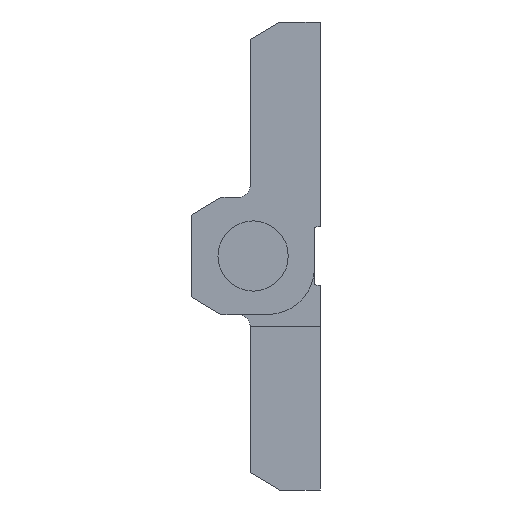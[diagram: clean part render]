
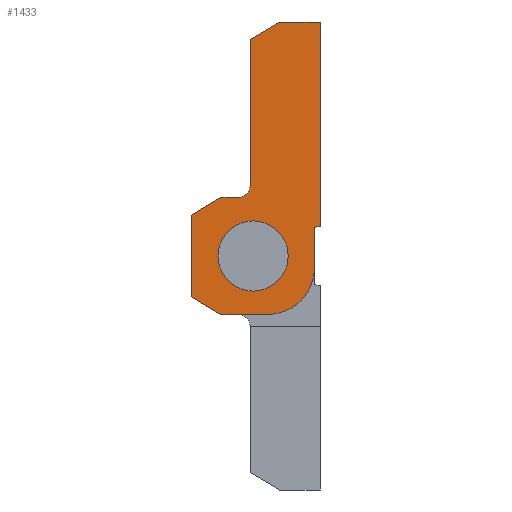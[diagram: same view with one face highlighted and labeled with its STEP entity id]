
A CAD part, left-side view. The second image highlights one B-rep face of the part: STEP entity #1433.
In plain terms, the highlighted planar face has unit normal (-1, 0, 0) as drawn and (1, 0, 0) by its records, which use the part's own axes.
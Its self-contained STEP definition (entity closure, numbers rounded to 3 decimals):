
#49 = VERTEX_POINT ( 'NONE', #2194 ) ;
#50 = CARTESIAN_POINT ( 'NONE',  ( 22.5, 6., -6. ) ) ;
#74 = DIRECTION ( 'NONE',  ( 0., 0., -1. ) ) ;
#91 = DIRECTION ( 'NONE',  ( 0., 0., -1. ) ) ;
#94 = ORIENTED_EDGE ( 'NONE', *, *, #1319, .T. ) ;
#95 = CARTESIAN_POINT ( 'NONE',  ( 22.5, 4.5, 5. ) ) ;
#102 = DIRECTION ( 'NONE',  ( 0., 0., 1. ) ) ;
#104 = CARTESIAN_POINT ( 'NONE',  ( 22.5, 0.5, 1. ) ) ;
#115 = CARTESIAN_POINT ( 'NONE',  ( 22.5, 0., -2.5 ) ) ;
#123 = CARTESIAN_POINT ( 'NONE',  ( 22.5, 11., 3.5 ) ) ;
#143 = CARTESIAN_POINT ( 'NONE',  ( 22.5, 6., -18.5 ) ) ;
#144 = CIRCLE ( 'NONE', #2160, 1. ) ;
#167 = DIRECTION ( 'NONE',  ( 0., -1., 0. ) ) ;
#168 = ORIENTED_EDGE ( 'NONE', *, *, #1643, .T. ) ;
#227 = EDGE_CURVE ( 'NONE', #1476, #2276, #1762, .T. ) ;
#297 = DIRECTION ( 'NONE',  ( 1., 0., 0. ) ) ;
#322 = DIRECTION ( 'NONE',  ( 0., 0., -1. ) ) ;
#329 = EDGE_CURVE ( 'NONE', #767, #1367, #2075, .T. ) ;
#343 = EDGE_CURVE ( 'NONE', #2226, #49, #2026, .T. ) ;
#376 = DIRECTION ( 'NONE',  ( 0., 0.857, 0.514 ) ) ;
#386 = VECTOR ( 'NONE', #2204, 1000. ) ;
#435 = LINE ( 'NONE', #2378, #861 ) ;
#483 = EDGE_LOOP ( 'NONE', ( #2301, #94, #1552, #1881, #1522, #1057, #589, #601, #990, #511, #1099, #2335, #1174, #168 ) ) ;
#506 = EDGE_CURVE ( 'NONE', #2099, #2014, #1463, .T. ) ;
#511 = ORIENTED_EDGE ( 'NONE', *, *, #329, .T. ) ;
#532 = CARTESIAN_POINT ( 'NONE',  ( 22.5, 7., -5. ) ) ;
#585 = VECTOR ( 'NONE', #1976, 1000. ) ;
#589 = ORIENTED_EDGE ( 'NONE', *, *, #343, .T. ) ;
#601 = ORIENTED_EDGE ( 'NONE', *, *, #2059, .T. ) ;
#651 = VECTOR ( 'NONE', #91, 1000. ) ;
#657 = EDGE_CURVE ( 'NONE', #1128, #705, #1597, .T. ) ;
#677 = DIRECTION ( 'NONE',  ( 0., 0., 1. ) ) ;
#705 = VERTEX_POINT ( 'NONE', #2211 ) ;
#728 = EDGE_CURVE ( 'NONE', #1367, #2090, #144, .T. ) ;
#733 = AXIS2_PLACEMENT_3D ( 'NONE', #1280, #1459, #677 ) ;
#767 = VERTEX_POINT ( 'NONE', #143 ) ;
#782 = VERTEX_POINT ( 'NONE', #2430 ) ;
#785 = VECTOR ( 'NONE', #2299, 1000. ) ;
#787 = CIRCLE ( 'NONE', #823, 3. ) ;
#789 = DIRECTION ( 'NONE',  ( 1., 0., 0. ) ) ;
#801 = DIRECTION ( 'NONE',  ( 0., 0.857, 0.514 ) ) ;
#808 = EDGE_CURVE ( 'NONE', #2014, #1128, #1843, .T. ) ;
#812 = CARTESIAN_POINT ( 'NONE',  ( 22.5, 4.5, 1. ) ) ;
#822 = EDGE_CURVE ( 'NONE', #782, #1642, #1244, .T. ) ;
#823 = AXIS2_PLACEMENT_3D ( 'NONE', #902, #789, #2476 ) ;
#861 = VECTOR ( 'NONE', #801, 1000. ) ;
#863 = DIRECTION ( 'NONE',  ( 0., 0., -1. ) ) ;
#887 = CARTESIAN_POINT ( 'NONE',  ( 22.5, 7., -6. ) ) ;
#889 = PLANE ( 'NONE',  #1848 ) ;
#902 = CARTESIAN_POINT ( 'NONE',  ( 22.5, 5.75, 0. ) ) ;
#946 = VECTOR ( 'NONE', #2269, 1000. ) ;
#990 = ORIENTED_EDGE ( 'NONE', *, *, #1948, .T. ) ;
#1038 = CARTESIAN_POINT ( 'NONE',  ( 22.5, 6., -18.5 ) ) ;
#1053 = CARTESIAN_POINT ( 'NONE',  ( 22.5, 4.5, 1. ) ) ;
#1054 = AXIS2_PLACEMENT_3D ( 'NONE', #1661, #1854, #2037 ) ;
#1057 = ORIENTED_EDGE ( 'NONE', *, *, #1674, .T. ) ;
#1099 = ORIENTED_EDGE ( 'NONE', *, *, #728, .T. ) ;
#1112 = LINE ( 'NONE', #1903, #1769 ) ;
#1128 = VERTEX_POINT ( 'NONE', #2362 ) ;
#1174 = ORIENTED_EDGE ( 'NONE', *, *, #2088, .T. ) ;
#1187 = ORIENTED_EDGE ( 'NONE', *, *, #2418, .F. ) ;
#1196 = CARTESIAN_POINT ( 'NONE',  ( 22.5, 0., -20. ) ) ;
#1210 = AXIS2_PLACEMENT_3D ( 'NONE', #812, #2406, #74 ) ;
#1220 = VERTEX_POINT ( 'NONE', #1799 ) ;
#1244 = LINE ( 'NONE', #123, #386 ) ;
#1254 = CARTESIAN_POINT ( 'NONE',  ( 22.5, 0., -2.5 ) ) ;
#1280 = CARTESIAN_POINT ( 'NONE',  ( 22.5, 0.3, -2.3 ) ) ;
#1293 = DIRECTION ( 'NONE',  ( 0., 1., 0. ) ) ;
#1302 = VECTOR ( 'NONE', #1365, 1000. ) ;
#1319 = EDGE_CURVE ( 'NONE', #1642, #2099, #1606, .T. ) ;
#1325 = CARTESIAN_POINT ( 'NONE',  ( 22.5, 3.5, -20. ) ) ;
#1326 = EDGE_LOOP ( 'NONE', ( #2134, #1187 ) ) ;
#1365 = DIRECTION ( 'NONE',  ( 0., -1., 0. ) ) ;
#1367 = VERTEX_POINT ( 'NONE', #50 ) ;
#1368 = CARTESIAN_POINT ( 'NONE',  ( 22.5, 3.5, -20. ) ) ;
#1410 = LINE ( 'NONE', #1196, #585 ) ;
#1421 = CARTESIAN_POINT ( 'NONE',  ( 22.5, 7., -5. ) ) ;
#1433 = ADVANCED_FACE ( 'NONE', ( #1859, #1846 ), #889, .T. ) ;
#1459 = DIRECTION ( 'NONE',  ( -1., 0., 0. ) ) ;
#1463 = CIRCLE ( 'NONE', #1210, 4. ) ;
#1469 = VECTOR ( 'NONE', #863, 1000. ) ;
#1476 = VERTEX_POINT ( 'NONE', #1654 ) ;
#1501 = CARTESIAN_POINT ( 'NONE',  ( 22.5, 8.5, 5. ) ) ;
#1522 = ORIENTED_EDGE ( 'NONE', *, *, #657, .T. ) ;
#1552 = ORIENTED_EDGE ( 'NONE', *, *, #506, .T. ) ;
#1597 = CIRCLE ( 'NONE', #733, 0.2 ) ;
#1606 = LINE ( 'NONE', #2159, #1302 ) ;
#1642 = VERTEX_POINT ( 'NONE', #1501 ) ;
#1643 = EDGE_CURVE ( 'NONE', #1220, #782, #1709, .T. ) ;
#1654 = CARTESIAN_POINT ( 'NONE',  ( 22.5, 5.75, 3. ) ) ;
#1661 = CARTESIAN_POINT ( 'NONE',  ( 22.5, 5.75, 0. ) ) ;
#1674 = EDGE_CURVE ( 'NONE', #705, #2226, #1112, .T. ) ;
#1684 = VERTEX_POINT ( 'NONE', #2097 ) ;
#1709 = LINE ( 'NONE', #2472, #946 ) ;
#1762 = CIRCLE ( 'NONE', #1054, 3. ) ;
#1769 = VECTOR ( 'NONE', #167, 1000. ) ;
#1799 = CARTESIAN_POINT ( 'NONE',  ( 22.5, 11., -3.5 ) ) ;
#1843 = LINE ( 'NONE', #104, #1469 ) ;
#1846 = FACE_OUTER_BOUND ( 'NONE', #483, .T. ) ;
#1848 = AXIS2_PLACEMENT_3D ( 'NONE', #1053, #297, #1293 ) ;
#1854 = DIRECTION ( 'NONE',  ( 1., 0., 0. ) ) ;
#1859 = FACE_BOUND ( 'NONE', #1326, .T. ) ;
#1881 = ORIENTED_EDGE ( 'NONE', *, *, #808, .T. ) ;
#1903 = CARTESIAN_POINT ( 'NONE',  ( 22.5, 0.3, -2.5 ) ) ;
#1940 = LINE ( 'NONE', #1325, #2243 ) ;
#1948 = EDGE_CURVE ( 'NONE', #2488, #767, #1940, .T. ) ;
#1976 = DIRECTION ( 'NONE',  ( 0., 1., 0. ) ) ;
#2014 = VERTEX_POINT ( 'NONE', #2168 ) ;
#2026 = LINE ( 'NONE', #115, #651 ) ;
#2037 = DIRECTION ( 'NONE',  ( 0., 0., -1. ) ) ;
#2051 = DIRECTION ( 'NONE',  ( -1., 0., 0. ) ) ;
#2059 = EDGE_CURVE ( 'NONE', #49, #2488, #1410, .T. ) ;
#2068 = LINE ( 'NONE', #532, #785 ) ;
#2075 = LINE ( 'NONE', #1038, #2232 ) ;
#2088 = EDGE_CURVE ( 'NONE', #1684, #1220, #435, .T. ) ;
#2090 = VERTEX_POINT ( 'NONE', #1421 ) ;
#2097 = CARTESIAN_POINT ( 'NONE',  ( 22.5, 8.5, -5. ) ) ;
#2099 = VERTEX_POINT ( 'NONE', #95 ) ;
#2134 = ORIENTED_EDGE ( 'NONE', *, *, #227, .F. ) ;
#2159 = CARTESIAN_POINT ( 'NONE',  ( 22.5, 8.5, 5. ) ) ;
#2160 = AXIS2_PLACEMENT_3D ( 'NONE', #887, #2051, #322 ) ;
#2168 = CARTESIAN_POINT ( 'NONE',  ( 22.5, 0.5, 1. ) ) ;
#2194 = CARTESIAN_POINT ( 'NONE',  ( 22.5, 0., -20. ) ) ;
#2204 = DIRECTION ( 'NONE',  ( 0., -0.857, 0.514 ) ) ;
#2211 = CARTESIAN_POINT ( 'NONE',  ( 22.5, 0.3, -2.5 ) ) ;
#2226 = VERTEX_POINT ( 'NONE', #1254 ) ;
#2232 = VECTOR ( 'NONE', #102, 1000. ) ;
#2243 = VECTOR ( 'NONE', #376, 1000. ) ;
#2269 = DIRECTION ( 'NONE',  ( 0., 0., 1. ) ) ;
#2276 = VERTEX_POINT ( 'NONE', #2283 ) ;
#2283 = CARTESIAN_POINT ( 'NONE',  ( 22.5, 5.75, -3. ) ) ;
#2299 = DIRECTION ( 'NONE',  ( 0., 1., 0. ) ) ;
#2301 = ORIENTED_EDGE ( 'NONE', *, *, #822, .T. ) ;
#2320 = EDGE_CURVE ( 'NONE', #2090, #1684, #2068, .T. ) ;
#2335 = ORIENTED_EDGE ( 'NONE', *, *, #2320, .T. ) ;
#2362 = CARTESIAN_POINT ( 'NONE',  ( 22.5, 0.5, -2.3 ) ) ;
#2378 = CARTESIAN_POINT ( 'NONE',  ( 22.5, 8.5, -5. ) ) ;
#2406 = DIRECTION ( 'NONE',  ( 1., 0., 0. ) ) ;
#2418 = EDGE_CURVE ( 'NONE', #2276, #1476, #787, .T. ) ;
#2430 = CARTESIAN_POINT ( 'NONE',  ( 22.5, 11., 3.5 ) ) ;
#2472 = CARTESIAN_POINT ( 'NONE',  ( 22.5, 11., -3.5 ) ) ;
#2476 = DIRECTION ( 'NONE',  ( 0., 0., -1. ) ) ;
#2488 = VERTEX_POINT ( 'NONE', #1368 ) ;
